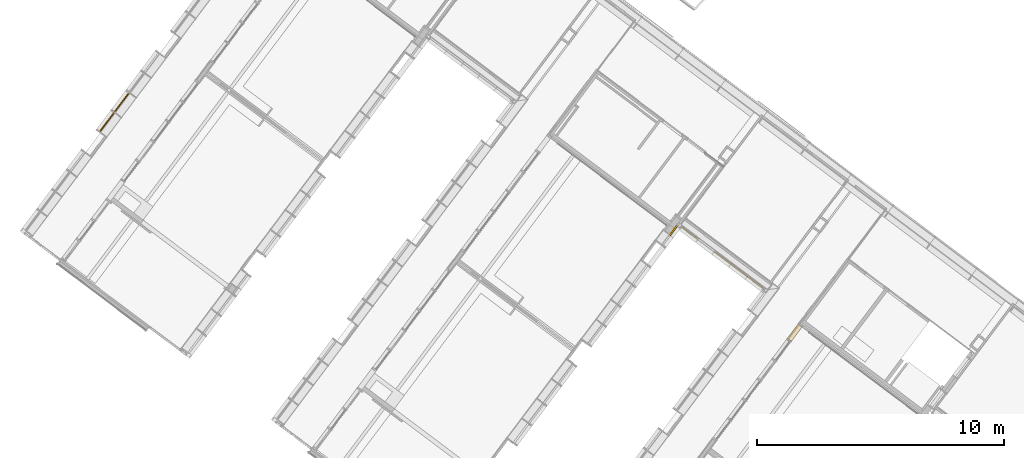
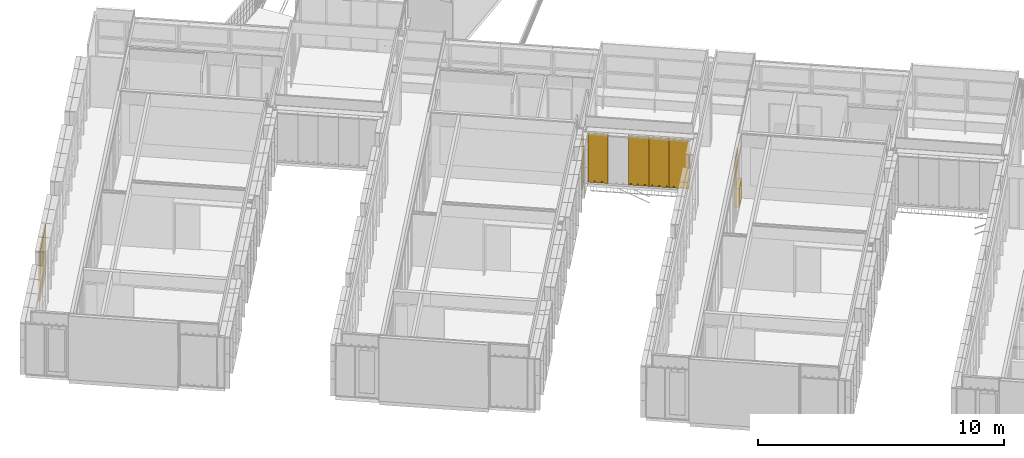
# One storey, part 198 of 243: 7 windows, 1 door, 4 elements without a shape of their own.
"""IFC2X3 building model written with IfcOpenShell, lengths in metres."""

from ifc_helpers import new_model, entity, si_unit, converted_unit, derived_unit, direction, frame, origin, origin_2d_with_axis, place, context, subcontext, project, spatial, rectangle, extrude, faceted_brep, source, transform, mapped, material, material_list, type_object, type_shapes, element, aggregate, save


model = new_model("IFC2X3")

# Units and contexts
model_context = context("Model", 3, precision=1e-05, world=origin(), true_north=direction((6.123031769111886e-17, 1.0)))
body_context = subcontext(model_context, "Body", "Model", "MODEL_VIEW")
ifc_project = project(units=[si_unit("LENGTHUNIT", "METRE"), si_unit("AREAUNIT", "SQUARE_METRE"), si_unit("VOLUMEUNIT", "CUBIC_METRE"), converted_unit("PLANEANGLEUNIT", "DEGREE", entity("IfcRatioMeasure", 0.017453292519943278), si_unit("PLANEANGLEUNIT", "RADIAN"), dimensions=[0, 0, 0, 0, 0, 0, 0]), si_unit("MASSUNIT", "GRAM", prefix="KILO"), derived_unit("MASSDENSITYUNIT", [(si_unit("MASSUNIT", "GRAM", prefix="KILO"), 1), (si_unit("LENGTHUNIT", "METRE"), -3)]), derived_unit("IONCONCENTRATIONUNIT", [(si_unit("MASSUNIT", "GRAM", prefix="KILO"), 1), (si_unit("LENGTHUNIT", "METRE"), -3)]), derived_unit("MOMENTOFINERTIAUNIT", [(si_unit("LENGTHUNIT", "METRE"), 4)]), si_unit("TIMEUNIT", "SECOND"), si_unit("FREQUENCYUNIT", "HERTZ"), si_unit("THERMODYNAMICTEMPERATUREUNIT", "DEGREE_CELSIUS"), derived_unit("THERMALTRANSMITTANCEUNIT", [(si_unit("MASSUNIT", "GRAM", prefix="KILO"), 1), (si_unit("THERMODYNAMICTEMPERATUREUNIT", "KELVIN"), -1), (si_unit("TIMEUNIT", "SECOND"), -3)]), derived_unit("THERMALCONDUCTANCEUNIT", [(si_unit("MASSUNIT", "GRAM", prefix="KILO"), 1), (si_unit("THERMODYNAMICTEMPERATUREUNIT", "KELVIN"), -1), (si_unit("TIMEUNIT", "SECOND"), -3), (si_unit("LENGTHUNIT", "METRE"), 1)]), derived_unit("VOLUMETRICFLOWRATEUNIT", [(si_unit("LENGTHUNIT", "METRE"), 3), (si_unit("TIMEUNIT", "SECOND"), -1)]), derived_unit("MASSFLOWRATEUNIT", [(si_unit("MASSUNIT", "GRAM", prefix="KILO"), 1), (si_unit("TIMEUNIT", "SECOND"), -1)]), derived_unit("ROTATIONALFREQUENCYUNIT", [(si_unit("TIMEUNIT", "SECOND"), -1)]), si_unit("ELECTRICCURRENTUNIT", "AMPERE"), si_unit("ELECTRICVOLTAGEUNIT", "VOLT"), si_unit("POWERUNIT", "WATT"), si_unit("FORCEUNIT", "NEWTON", prefix="KILO"), si_unit("ILLUMINANCEUNIT", "LUX"), si_unit("LUMINOUSFLUXUNIT", "LUMEN"), si_unit("LUMINOUSINTENSITYUNIT", "CANDELA"), derived_unit("USERDEFINED", [(si_unit("MASSUNIT", "GRAM", prefix="KILO"), -1), (si_unit("LENGTHUNIT", "METRE"), -2), (si_unit("TIMEUNIT", "SECOND"), 3), (si_unit("LUMINOUSFLUXUNIT", "LUMEN"), 1)]), derived_unit("USERDEFINED", [(si_unit("MASSUNIT", "GRAM", prefix="KILO"), 1), (si_unit("TIMEUNIT", "SECOND"), -3), (si_unit("LENGTHUNIT", "METRE"), 3), (si_unit("ELECTRICCURRENTUNIT", "AMPERE"), -2)]), derived_unit("SOUNDPOWERUNIT", [(si_unit("MASSUNIT", "GRAM", prefix="KILO"), 1), (si_unit("TIMEUNIT", "SECOND"), -3), (si_unit("LENGTHUNIT", "METRE"), 2)]), derived_unit("SOUNDPRESSUREUNIT", [(si_unit("MASSUNIT", "GRAM", prefix="KILO"), 1), (si_unit("LENGTHUNIT", "METRE"), -1), (si_unit("TIMEUNIT", "SECOND"), -2)]), derived_unit("LINEARVELOCITYUNIT", [(si_unit("LENGTHUNIT", "METRE"), 1), (si_unit("TIMEUNIT", "SECOND"), -1)]), si_unit("PRESSUREUNIT", "PASCAL"), derived_unit("USERDEFINED", [(si_unit("MASSUNIT", "GRAM", prefix="KILO"), 1), (si_unit("LENGTHUNIT", "METRE"), -2), (si_unit("TIMEUNIT", "SECOND"), -2)]), derived_unit("LINEARFORCEUNIT", [(si_unit("MASSUNIT", "GRAM", prefix="KILO"), 1), (si_unit("TIMEUNIT", "SECOND"), -2)]), derived_unit("PLANARFORCEUNIT", [(si_unit("MASSUNIT", "GRAM", prefix="KILO"), 1), (si_unit("LENGTHUNIT", "METRE"), -1), (si_unit("TIMEUNIT", "SECOND"), -2)]), derived_unit("SPECIFICHEATCAPACITYUNIT", [(si_unit("THERMODYNAMICTEMPERATUREUNIT", "KELVIN"), -1), (si_unit("LENGTHUNIT", "METRE"), 2), (si_unit("TIMEUNIT", "SECOND"), -2)]), derived_unit("HEATINGVALUEUNIT", [(si_unit("LENGTHUNIT", "METRE"), 2), (si_unit("TIMEUNIT", "SECOND"), -2)]), derived_unit("VAPORPERMEABILITYUNIT", [(si_unit("LENGTHUNIT", "METRE"), -1), (si_unit("TIMEUNIT", "SECOND"), 1)]), derived_unit("DYNAMICVISCOSITYUNIT", [(si_unit("MASSUNIT", "GRAM", prefix="KILO"), 1), (si_unit("TIMEUNIT", "SECOND"), -1), (si_unit("LENGTHUNIT", "METRE"), -1)]), derived_unit("THERMALEXPANSIONCOEFFICIENTUNIT", [(si_unit("THERMODYNAMICTEMPERATUREUNIT", "KELVIN"), -1)]), derived_unit("MODULUSOFELASTICITYUNIT", [(si_unit("MASSUNIT", "GRAM", prefix="KILO"), 1), (si_unit("LENGTHUNIT", "METRE"), -1), (si_unit("TIMEUNIT", "SECOND"), -2)]), derived_unit("ISOTHERMALMOISTURECAPACITYUNIT", [(si_unit("LENGTHUNIT", "METRE"), 3), (si_unit("MASSUNIT", "GRAM", prefix="KILO"), -1)]), derived_unit("MOISTUREDIFFUSIVITYUNIT", [(si_unit("TIMEUNIT", "SECOND"), -1), (si_unit("LENGTHUNIT", "METRE"), 2)])], contexts=[model_context])

# Site, building, storey
site_placement = place(None, frame((0.0, 0.0, 235.0), z_axis=(0.0, 0.0, 1.0), x_axis=(-0.7996477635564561, 0.6004693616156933, 0.0)))
site = spatial("IfcSite", under=ifc_project, at=site_placement, Name="Default", CompositionType="ELEMENT")
building_placement = place(site_placement, origin())
building = spatial("IfcBuilding", under=site, at=building_placement, CompositionType="ELEMENT")
storey_placement = place(building_placement, origin())
storey = spatial("IfcBuildingStorey", under=building, at=storey_placement, Name="P0- Escola", CompositionType="ELEMENT", Elevation=0.0)

# Curtain wall, window
curtain_wall_type_1 = type_object("IfcCurtainWallType", Name="Muro cortina:MC- INT- a1", PredefinedType="NOTDEFINED")
curtain_wall_1_placement = place(storey_placement, origin())
curtain_wall_1 = element("IfcCurtainWall", 1, at=curtain_wall_1_placement, inside=storey, type_object=curtain_wall_type_1, Name="Muro cortina:MC- INT- a1", ObjectType="Muro cortina:MC- INT- a1")
ifc_material_1 = material(Name="_Fusta massisa- T1-  REV- PAV")
ifc_material_2 = material(Name="_Aillament")
ifc_material_list_1 = material_list([ifc_material_1, ifc_material_2])
window_style_1 = type_object("IfcWindowStyle", Name="MC- Fusta- Finestra ventilacio interior- Enva- Sencer:MC- Fusta- Finestra ventilacio interior- Enva- Sencer", ConstructionType="NOTDEFINED", OperationType="NOTDEFINED", ParameterTakesPrecedence=False, Sizeable=False, material=ifc_material_list_1)
shared_shape_1 = source(origin(), body_context, "Body", "Brep", [
    faceted_brep([(-0.2805000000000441, 0.145000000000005, 2.428), (-0.28050000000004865, 0.14500000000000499, 1.0449999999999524), (0.28050000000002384, 0.1450000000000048, 1.0449999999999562), (0.2805000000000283, 0.14500000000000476, 2.428000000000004), (0.2805000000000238, 0.11500000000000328, 1.0449999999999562), (0.2805000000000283, 0.11500000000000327, 2.428000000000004), (-0.2805000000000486, 0.1150000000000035, 1.0449999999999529), (-0.2805000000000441, 0.11500000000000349, 2.428), (0.3255000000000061, 0.15999999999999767, 2.4730000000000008), (0.3255000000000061, 0.1300000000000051, 2.4730000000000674), (0.3255000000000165, 0.13000000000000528, 1.0), (0.3255000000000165, 0.16000000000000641, 1.0), (-0.32550000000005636, 0.13000000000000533, 1.0), (-0.32550000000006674, 0.12999999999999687, 2.4729999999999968), (-0.32550000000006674, 0.15999999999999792, 2.4729999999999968), (-0.32550000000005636, 0.16000000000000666, 1.0), (0.3405000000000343, 0.12999999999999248, 0.9850000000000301), (-0.3405000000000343, 0.12999999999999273, 0.9850000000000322), (-0.3405000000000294, 0.13000000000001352, 2.4880000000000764), (0.34050000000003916, 0.13000000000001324, 2.4880000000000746), (0.34050000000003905, 0.10000000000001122, 2.4880000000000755), (-0.34050000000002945, 0.1000000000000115, 2.4880000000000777), (-0.34050000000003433, 0.09999999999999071, 0.9850000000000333), (0.3405000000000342, 0.09999999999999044, 0.9850000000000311)], [[[0, 1, 2, 3]], [[3, 2, 4, 5]], [[5, 4, 6, 7]], [[1, 0, 7, 6]], [[8, 9, 10, 11]], [[12, 13, 14, 15]], [[13, 9, 8, 14]], [[8, 11, 15, 14]], [[0, 3, 5, 7]], [[2, 1, 6, 4]], [[11, 10, 12, 15]], [[9, 13, 12, 10], [16, 17, 18, 19]], [[20, 21, 22, 23]], [[20, 19, 18, 21]], [[16, 19, 20, 23]], [[18, 17, 22, 21]], [[16, 23, 22, 17]]], outer=[[True], [True], [True], [True], [True], [True], [True], [True], [True], [True], [True], [False, True], [True], [True], [True], [True], [True]]),
    faceted_brep([(0.3575000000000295, 0.10400000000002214, 2.5050000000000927), (0.35750000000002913, 0.1040000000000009, 0.9679999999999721), (0.3575000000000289, 0.15600000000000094, 0.9679999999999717), (0.3575000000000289, 0.1560000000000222, 2.5050000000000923), (0.3525000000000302, 0.15600000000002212, 2.500000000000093), (-0.35250000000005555, 0.15600000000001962, 2.500000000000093), (-0.35250000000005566, 0.1559999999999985, 0.9729999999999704), (0.3525000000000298, 0.15600000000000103, 0.9729999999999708), (-0.35750000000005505, 0.15600000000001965, 2.5050000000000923), (-0.3575000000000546, 0.15599999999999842, 0.9679999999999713), (-0.3575000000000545, 0.10399999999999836, 0.9679999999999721), (-0.3575000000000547, 0.1040000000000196, 2.5050000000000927), (-0.3525000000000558, 0.10400000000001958, 2.5000000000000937), (0.35250000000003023, 0.10400000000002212, 2.5000000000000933), (0.3525000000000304, 0.10400000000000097, 0.972999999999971), (-0.35250000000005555, 0.10399999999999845, 0.972999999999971), (0.35250000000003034, 0.1000000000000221, 2.5000000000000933), (0.3525000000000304, 0.100000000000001, 0.972999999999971), (-0.35250000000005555, 0.09999999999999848, 0.9729999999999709), (-0.3525000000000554, 0.1000000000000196, 2.5000000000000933), (-0.3425000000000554, 0.1000000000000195, 2.4900000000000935), (0.34250000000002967, 0.1000000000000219, 2.490000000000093), (0.34250000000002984, 0.10000000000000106, 0.9829999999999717), (-0.34250000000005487, 0.09999999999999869, 0.9829999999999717), (0.3425000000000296, 0.13000000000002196, 2.490000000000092), (0.3425000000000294, 0.13000000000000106, 0.9829999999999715), (-0.342500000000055, 0.12999999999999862, 0.9829999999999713), (-0.34250000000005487, 0.13000000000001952, 2.490000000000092), (-0.3275000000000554, 0.13000000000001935, 2.475000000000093), (0.32750000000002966, 0.13000000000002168, 2.4750000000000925), (0.32750000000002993, 0.13000000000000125, 0.9979999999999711), (-0.3275000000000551, 0.1299999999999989, 0.9979999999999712), (0.3275000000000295, 0.16000000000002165, 2.475000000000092), (0.3275000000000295, 0.16000000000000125, 0.9979999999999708), (-0.32750000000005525, 0.15999999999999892, 0.9979999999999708), (-0.32750000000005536, 0.16000000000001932, 2.4750000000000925), (-0.3525000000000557, 0.16000000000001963, 2.500000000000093), (0.3525000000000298, 0.16000000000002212, 2.5000000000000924), (0.35250000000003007, 0.16000000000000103, 0.9729999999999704), (-0.3525000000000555, 0.1599999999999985, 0.9729999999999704)], [[[0, 1, 2, 3]], [[4, 5, 6, 7], [8, 3, 2, 9]], [[1, 10, 9, 2]], [[0, 11, 10, 1], [12, 13, 14, 15]], [[16, 17, 14, 13]], [[17, 18, 15, 14]], [[16, 19, 18, 17], [20, 21, 22, 23]], [[24, 25, 22, 21]], [[25, 26, 23, 22]], [[24, 27, 26, 25], [28, 29, 30, 31]], [[32, 33, 30, 29]], [[33, 34, 31, 30]], [[32, 35, 34, 33], [36, 37, 38, 39]], [[4, 7, 38, 37]], [[7, 6, 39, 38]], [[10, 11, 8, 9]], [[18, 19, 12, 15]], [[26, 27, 20, 23]], [[34, 35, 28, 31]], [[6, 5, 36, 39]], [[11, 0, 3, 8]], [[19, 16, 13, 12]], [[27, 24, 21, 20]], [[35, 32, 29, 28]], [[5, 4, 37, 36]]], outer=[[True], [False, True], [True], [True, False], [True], [True], [True, False], [True], [True], [True, False], [True], [True], [False, True], [True], [True], [True], [True], [True], [True], [True], [True], [True], [True], [True], [True]]),
    faceted_brep([(-0.35250000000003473, 0.14500000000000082, 0.005000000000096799), (0.35250000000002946, 0.14500000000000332, 0.005000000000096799), (0.35250000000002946, 0.14500000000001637, 0.9480000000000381), (-0.35250000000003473, 0.14500000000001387, 0.9480000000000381), (-0.3525000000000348, 0.15999999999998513, 0.005000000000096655), (-0.3525000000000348, 0.15999999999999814, 0.9480000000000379), (0.3525000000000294, 0.16000000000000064, 0.9480000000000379), (0.3525000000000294, 0.15999999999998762, 0.005000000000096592)], [[[0, 1, 2, 3]], [[4, 5, 6, 7]], [[7, 1, 0, 4]], [[6, 2, 1, 7]], [[5, 3, 2, 6]], [[4, 0, 3, 5]]]),
    faceted_brep([(-0.3525000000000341, -0.039999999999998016, 0.005000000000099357), (0.35250000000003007, -0.03999999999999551, 0.005000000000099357), (0.35250000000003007, -0.03999999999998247, 0.9480000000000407), (-0.3525000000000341, -0.03999999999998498, 0.9480000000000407), (-0.3525000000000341, -0.025000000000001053, 0.005000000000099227), (-0.3525000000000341, -0.02499999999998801, 0.9480000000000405), (0.35250000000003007, -0.024999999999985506, 0.9480000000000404), (0.35250000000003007, -0.024999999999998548, 0.00500000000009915)], [[[0, 1, 2, 3]], [[4, 5, 6, 7]], [[7, 1, 0, 4]], [[6, 2, 1, 7]], [[5, 3, 2, 6]], [[4, 0, 3, 5]]]),
    faceted_brep([(-0.3575000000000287, -0.025000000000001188, 0.0), (0.35750000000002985, -0.024999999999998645, 0.0), (0.35750000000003, -0.024999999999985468, 0.9530000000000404), (-0.3575000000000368, -0.02499999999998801, 0.9530000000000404), (-0.3575000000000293, 0.14500000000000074, 0.0), (-0.3575000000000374, 0.14500000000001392, 0.9530000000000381), (0.3575000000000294, 0.14500000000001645, 0.9530000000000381), (0.35750000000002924, 0.1450000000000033, 0.0)], [[[0, 1, 2, 3]], [[4, 5, 6, 7]], [[7, 1, 0, 4]], [[6, 2, 1, 7]], [[5, 3, 2, 6]], [[4, 0, 3, 5]]]),
    faceted_brep([(-0.3575000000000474, 0.15999999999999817, 0.9530000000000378), (-0.3575000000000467, -0.04000000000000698, 0.9530000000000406), (-0.3575000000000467, -0.04000000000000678, 0.9680000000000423), (-0.3575000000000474, 0.15999999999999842, 0.9680000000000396), (0.35750000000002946, 0.16000000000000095, 0.9680000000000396), (0.3575000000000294, 0.16000000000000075, 0.9530000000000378), (0.3575000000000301, -0.04000000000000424, 0.9680000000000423), (0.3575000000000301, -0.04000000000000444, 0.9530000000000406)], [[[0, 1, 2, 3]], [[3, 4, 5, 0]], [[2, 6, 4, 3]], [[1, 7, 6, 2]], [[0, 5, 7, 1]], [[5, 4, 6, 7]]]),
])
type_shapes(window_style_1, [shared_shape_1])
window_1_placement = place(curtain_wall_1_placement, frame((47.320147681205, -35.80268997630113, 0.0), z_axis=(0.0, 0.0, 1.0), x_axis=(0.0, -1.0, 0.0)))
window_1 = element("IfcWindow", 2, at=window_1_placement, type_object=window_style_1, material=ifc_material_list_1, Name="MC- Fusta- Finestra ventilacio interior- Enva- Sencer:MC- Fusta- Finestra ventilacio interior- Enva- Sencer", ObjectType="MC- Fusta- Finestra ventilacio interior- Enva- Sencer:MC- Fusta- Finestra ventilacio interior- Enva- Sencer", OverallHeight=2.5050000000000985, OverallWidth=0.715000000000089, context=body_context, shape_type="MappedRepresentation", body=[
    mapped(shared_shape_1, transform((0.0, 0.0, 0.0), scale=1.0)),
])
aggregate(curtain_wall_1, [window_1])

# Curtain wall, door
curtain_wall_type_2 = type_object("IfcCurtainWallType", Name="Muro cortina:MC- EXT- MC2", PredefinedType="NOTDEFINED")
curtain_wall_2_placement = place(storey_placement, origin())
curtain_wall_2 = element("IfcCurtainWall", 3, at=curtain_wall_2_placement, inside=storey, type_object=curtain_wall_type_2, Name="Muro cortina:MC- EXT- MC2", ObjectType="Muro cortina:MC- EXT- MC2")
ifc_material_3 = material(Name="_Alumini- T1- Perfil")
ifc_material_list_2 = material_list([ifc_material_3, ifc_material_2])
door_style = type_object("IfcDoorStyle", Name="MC- Alu- panell especific xapa:MC- Alu- panell especific xapa", ConstructionType="NOTDEFINED", OperationType="NOTDEFINED", ParameterTakesPrecedence=False, Sizeable=False, material=ifc_material_list_2)
shared_shape_2 = source(origin(), body_context, "Body", "SweptSolid", [
    extrude(rectangle(XDim=0.005999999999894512, YDim=0.47694997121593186, at=origin_2d_with_axis()), frame((0.0, -0.057000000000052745, 0.0), z_axis=(0.0, 0.0, 1.0), x_axis=(0.0, -1.0, 0.0)), (0.0, 0.0, 1.0), 2.471449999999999),
    extrude(rectangle(XDim=0.4769499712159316, YDim=0.048000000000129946, at=origin_2d_with_axis()), frame((0.0, -0.030000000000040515, 0.0)), (0.0, 0.0, 1.0), 2.471449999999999),
    extrude(rectangle(XDim=0.005999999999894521, YDim=0.47694997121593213, at=origin_2d_with_axis()), frame((0.0, -0.003000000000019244, 0.0), z_axis=(0.0, 0.0, 1.0), x_axis=(0.0, -1.0, 0.0)), (0.0, 0.0, 1.0), 2.471449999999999),
])
type_shapes(door_style, [shared_shape_2])
door_placement = place(curtain_wall_2_placement, frame((53.745147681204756, -36.161664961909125, 0.03229999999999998), z_axis=(0.0, 0.0, 1.0), x_axis=(0.0, 1.0, 0.0)))
door = element("IfcDoor", 4, at=door_placement, type_object=door_style, material=ifc_material_list_2, Name="MC- Alu- panell especific xapa:MC- Alu- panell especific xapa", ObjectType="MC- Alu- panell especific xapa:MC- Alu- panell especific xapa", OverallHeight=2.471449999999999, OverallWidth=0.47694997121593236, context=body_context, shape_type="MappedRepresentation", body=[
    mapped(shared_shape_2, transform((0.0, 0.0, 0.0), scale=1.0)),
])
aggregate(curtain_wall_2, [door])

# Curtain wall, windows
curtain_wall_type_3 = type_object("IfcCurtainWallType", Name="Muro cortina:MC- EXT- MC5", PredefinedType="NOTDEFINED")
curtain_wall_3_placement = place(storey_placement, origin())
curtain_wall_3 = element("IfcCurtainWall", 5, at=curtain_wall_3_placement, inside=storey, type_object=curtain_wall_type_3, Name="Muro cortina:MC- EXT- MC5", ObjectType="Muro cortina:MC- EXT- MC5")
ifc_material_4 = material(Name="_Vidre")
ifc_material_list_3 = material_list([ifc_material_4, ifc_material_3])
window_style_2 = type_object("IfcWindowStyle", Name="MC- Alu- Conjunt vidre fix- 62x60 cm:MC- Alu- Conjunt vidre fix- 62x60 cm", ConstructionType="NOTDEFINED", OperationType="NOTDEFINED", ParameterTakesPrecedence=False, Sizeable=False, material=ifc_material_list_3)
shared_shape_3 = source(origin(), body_context, "Body", "Brep", [
    faceted_brep([(-0.43619328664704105, -0.007600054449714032, 0.048806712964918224), (0.43619328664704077, -0.007600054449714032, 0.048806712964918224), (0.43619328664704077, -0.03160022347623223, 0.048806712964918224), (-0.43619328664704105, -0.03160022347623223, 0.048806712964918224), (-0.43619328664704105, -0.007600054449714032, 2.422449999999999), (0.43619328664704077, -0.007600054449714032, 2.422449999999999), (0.43619328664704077, -0.03160022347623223, 2.422449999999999), (-0.43619328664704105, -0.03160022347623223, 2.422449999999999)], [[[0, 1, 2, 3]], [[4, 5, 1, 0]], [[5, 6, 2, 1]], [[6, 7, 3, 2]], [[7, 4, 0, 3]], [[4, 7, 6, 5]]]),
    faceted_brep([(-0.4849999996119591, -0.05999999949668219, 2.471449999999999), (-0.4849999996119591, 0.0, 2.471449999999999), (-0.4849999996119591, 0.0, 0.0), (-0.48499999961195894, -0.05999999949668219, 0.0), (-0.4221931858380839, 0.0, 2.408643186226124), (-0.4221931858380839, 0.0, 0.06280681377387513), (0.42219318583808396, 0.0, 0.06280681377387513), (0.422193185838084, 0.0, 2.408643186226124), (0.4849999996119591, 0.0, 2.471449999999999), (0.4849999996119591, 0.0, 0.0), (0.48499999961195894, -0.05999999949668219, 0.0), (0.4849999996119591, -0.05999999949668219, 2.471449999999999), (0.42219603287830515, -0.05999999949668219, 2.408646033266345), (0.42219603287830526, -0.05999999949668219, 0.06280396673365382), (-0.42219603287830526, -0.05999999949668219, 0.06280396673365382), (-0.42219603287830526, -0.05999999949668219, 2.4086460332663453), (-0.42219603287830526, -0.03160022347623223, 2.4086460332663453), (-0.4221960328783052, -0.03160022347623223, 0.06280396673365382), (0.4221960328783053, -0.03160022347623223, 0.06280396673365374), (0.42219603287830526, -0.03160022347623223, 2.4086460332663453), (0.43619328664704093, -0.03160022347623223, 2.422643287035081), (0.43619328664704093, -0.03160022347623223, 0.048806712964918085), (-0.4361932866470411, -0.03160022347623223, 0.04880671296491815), (-0.43619328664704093, -0.03160022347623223, 2.422643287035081), (-0.43619328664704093, -0.007600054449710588, 2.422643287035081), (-0.4361932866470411, -0.007600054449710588, 0.04880671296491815), (0.43619328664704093, -0.007600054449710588, 0.048806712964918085), (0.43619328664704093, -0.007600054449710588, 2.422643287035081), (0.42219318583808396, -0.007600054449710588, 2.408643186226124), (0.42219318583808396, -0.007600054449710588, 0.06280681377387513), (-0.42219318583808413, -0.007600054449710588, 0.06280681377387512), (-0.4221931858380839, -0.007600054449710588, 2.408643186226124)], [[[0, 1, 2, 3]], [[4, 5, 6, 7], [8, 9, 2, 1]], [[3, 2, 9, 10]], [[0, 3, 10, 11], [12, 13, 14, 15]], [[16, 15, 14, 17]], [[17, 14, 13, 18]], [[16, 17, 18, 19], [20, 21, 22, 23]], [[24, 23, 22, 25]], [[25, 22, 21, 26]], [[24, 25, 26, 27], [28, 29, 30, 31]], [[4, 31, 30, 5]], [[5, 30, 29, 6]], [[10, 9, 8, 11]], [[18, 13, 12, 19]], [[26, 21, 20, 27]], [[6, 29, 28, 7]], [[11, 8, 1, 0]], [[19, 12, 15, 16]], [[27, 20, 23, 24]], [[7, 28, 31, 4]]], outer=[[True], [False, True], [True], [True, False], [True], [True], [False, True], [True], [True], [True, False], [True], [True], [True], [True], [True], [True], [True], [True], [True], [True]]),
])
type_shapes(window_style_2, [shared_shape_3])
window_2_placement = place(curtain_wall_3_placement, frame((74.7451476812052, -26.91519175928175, 0.03229999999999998), z_axis=(0.0, 0.0, 1.0), x_axis=(0.0, -1.0, 0.0)))
window_2 = element("IfcWindow", 6, at=window_2_placement, type_object=window_style_2, material=ifc_material_list_3, Name="MC- Alu- Conjunt vidre fix- 62x60 cm:MC- Alu- Conjunt vidre fix- 62x60 cm", ObjectType="MC- Alu- Conjunt vidre fix- 62x60 cm:MC- Alu- Conjunt vidre fix- 62x60 cm", OverallHeight=2.471449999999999, OverallWidth=0.9699999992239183, context=body_context, shape_type="MappedRepresentation", body=[
    mapped(shared_shape_3, transform((0.0, 0.0, 0.0), scale=1.0)),
])
window_style_3 = type_object("IfcWindowStyle", Name="MC- Alu- Conjunt vidre fix- 62x60 cm:MC- Alu- Conjunt vidre fix- 62x60 cm", ConstructionType="NOTDEFINED", OperationType="NOTDEFINED", ParameterTakesPrecedence=False, Sizeable=False, material=ifc_material_list_3)
shared_shape_4 = source(origin(), body_context, "Body", "Brep", [
    faceted_brep([(0.43619328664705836, -0.007600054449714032, 0.048806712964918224), (0.43619328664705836, -0.03160022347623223, 0.048806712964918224), (-0.4361932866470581, -0.03160022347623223, 0.048806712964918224), (-0.4361932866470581, -0.007600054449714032, 0.048806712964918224), (0.43619328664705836, -0.007600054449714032, 2.422449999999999), (-0.4361932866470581, -0.007600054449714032, 2.422449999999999), (-0.4361932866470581, -0.03160022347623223, 2.422449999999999), (0.43619328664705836, -0.03160022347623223, 2.422449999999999)], [[[0, 1, 2, 3]], [[4, 0, 3, 5]], [[5, 3, 2, 6]], [[6, 2, 1, 7]], [[7, 1, 0, 4]], [[4, 5, 6, 7]]]),
    faceted_brep([(0.48499999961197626, -0.05999999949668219, 2.471449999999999), (0.48499999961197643, -0.05999999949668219, 0.0), (0.48499999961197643, 0.0, 0.0), (0.48499999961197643, 0.0, 2.471449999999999), (-0.48499999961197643, 0.0, 2.471449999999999), (-0.48499999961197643, 0.0, 0.0), (0.4221931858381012, 0.0, 2.408643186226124), (-0.4221931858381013, 0.0, 2.408643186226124), (-0.4221931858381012, 0.0, 0.06280681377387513), (0.4221931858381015, 0.0, 0.06280681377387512), (-0.48499999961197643, -0.05999999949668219, 0.0), (-0.4849999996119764, -0.05999999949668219, 2.471449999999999), (-0.4221960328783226, -0.05999999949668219, 2.4086460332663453), (0.4221960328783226, -0.05999999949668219, 2.4086460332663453), (0.4221960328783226, -0.05999999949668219, 0.06280396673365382), (-0.4221960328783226, -0.05999999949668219, 0.06280396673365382), (0.42219603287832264, -0.03160022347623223, 2.4086460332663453), (0.4221960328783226, -0.03160022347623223, 0.06280396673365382), (-0.4221960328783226, -0.03160022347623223, 0.06280396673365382), (-0.4221960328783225, -0.03160022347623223, 2.4086460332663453), (-0.43619328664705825, -0.03160022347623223, 2.422643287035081), (0.43619328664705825, -0.03160022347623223, 2.422643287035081), (0.43619328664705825, -0.03160022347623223, 0.048806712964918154), (-0.43619328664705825, -0.03160022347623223, 0.04880671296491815), (0.43619328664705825, -0.007600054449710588, 2.422643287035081), (0.4361932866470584, -0.007600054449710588, 0.04880671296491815), (-0.43619328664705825, -0.007600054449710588, 0.048806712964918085), (-0.43619328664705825, -0.007600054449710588, 2.422643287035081), (-0.4221931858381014, -0.007600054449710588, 2.408643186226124), (0.4221931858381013, -0.007600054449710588, 2.408643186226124), (0.4221931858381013, -0.007600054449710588, 0.06280681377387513), (-0.4221931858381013, -0.007600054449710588, 0.06280681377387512)], [[[0, 1, 2, 3]], [[4, 3, 2, 5], [6, 7, 8, 9]], [[1, 10, 5, 2]], [[0, 11, 10, 1], [12, 13, 14, 15]], [[16, 17, 14, 13]], [[17, 18, 15, 14]], [[16, 19, 18, 17], [20, 21, 22, 23]], [[24, 25, 22, 21]], [[25, 26, 23, 22]], [[24, 27, 26, 25], [28, 29, 30, 31]], [[6, 9, 30, 29]], [[9, 8, 31, 30]], [[10, 11, 4, 5]], [[18, 19, 12, 15]], [[26, 27, 20, 23]], [[8, 7, 28, 31]], [[11, 0, 3, 4]], [[19, 16, 13, 12]], [[27, 24, 21, 20]], [[7, 6, 29, 28]]], outer=[[True], [True, False], [True], [True, False], [True], [True], [False, True], [True], [True], [True, False], [True], [True], [True], [True], [True], [True], [True], [True], [True], [True]]),
])
type_shapes(window_style_3, [shared_shape_4])
window_3_placement = place(curtain_wall_3_placement, frame((74.7451476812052, -25.915191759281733, 0.03229999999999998), z_axis=(0.0, 0.0, 1.0), x_axis=(0.0, -1.0, 0.0)))
window_3 = element("IfcWindow", 7, at=window_3_placement, type_object=window_style_3, material=ifc_material_list_3, Name="MC- Alu- Conjunt vidre fix- 62x60 cm:MC- Alu- Conjunt vidre fix- 62x60 cm", ObjectType="MC- Alu- Conjunt vidre fix- 62x60 cm:MC- Alu- Conjunt vidre fix- 62x60 cm", OverallHeight=2.471449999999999, OverallWidth=0.969999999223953, context=body_context, shape_type="MappedRepresentation", body=[
    mapped(shared_shape_4, transform((0.0, 0.0, 0.0), scale=1.0)),
])
aggregate(curtain_wall_3, [window_3, window_2])

curtain_wall_type_4 = type_object("IfcCurtainWallType", PredefinedType="NOTDEFINED")
curtain_wall_4_placement = place(storey_placement, origin())
curtain_wall_4 = element("IfcCurtainWall", 8, at=curtain_wall_4_placement, inside=storey, type_object=curtain_wall_type_4)
window_style_4 = type_object("IfcWindowStyle", Name="MC- Alu- Conjunt vidre fix- 62x60 cm:MC- Alu- Conjunt vidre fix- 62x60 cm", ConstructionType="NOTDEFINED", OperationType="NOTDEFINED", ParameterTakesPrecedence=False, Sizeable=False, material=ifc_material_list_3)
shared_shape_5 = source(origin(), body_context, "Body", "Brep", [
    faceted_brep([(-0.367593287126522, -0.007600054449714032, 0.048806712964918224), (0.36759328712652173, -0.007600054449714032, 0.048806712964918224), (0.36759328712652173, -0.03160022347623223, 0.048806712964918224), (-0.367593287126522, -0.03160022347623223, 0.048806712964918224), (-0.367593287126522, -0.007600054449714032, 2.389749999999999), (0.36759328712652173, -0.007600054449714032, 2.389749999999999), (0.36759328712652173, -0.03160022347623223, 2.389749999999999), (-0.367593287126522, -0.03160022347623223, 2.389749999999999)], [[[0, 1, 2, 3]], [[4, 5, 1, 0]], [[5, 6, 2, 1]], [[6, 7, 3, 2]], [[7, 4, 0, 3]], [[4, 7, 6, 5]]]),
    faceted_brep([(-0.4164000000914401, -0.05999999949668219, 2.438749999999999), (-0.4164000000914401, 0.0, 2.438749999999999), (-0.4164000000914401, 0.0, 0.0), (-0.41640000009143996, -0.05999999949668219, 0.0), (-0.3535931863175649, 0.0, 2.3759431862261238), (-0.3535931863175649, 0.0, 0.06280681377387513), (0.353593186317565, 0.0, 0.06280681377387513), (0.35359318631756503, 0.0, 2.3759431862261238), (0.4164000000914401, 0.0, 2.438749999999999), (0.4164000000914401, 0.0, 0.0), (0.41640000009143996, -0.05999999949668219, 0.0), (0.4164000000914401, -0.05999999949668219, 2.438749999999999), (0.35359603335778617, -0.05999999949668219, 2.3759460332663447), (0.3535960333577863, -0.05999999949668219, 0.06280396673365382), (-0.3535960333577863, -0.05999999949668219, 0.06280396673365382), (-0.3535960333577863, -0.05999999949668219, 2.375946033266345), (-0.3535960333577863, -0.03160022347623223, 2.375946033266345), (-0.3535960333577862, -0.03160022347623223, 0.06280396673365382), (0.3535960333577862, -0.03160022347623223, 0.0628039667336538), (0.3535960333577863, -0.03160022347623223, 2.375946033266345), (0.36759328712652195, -0.03160022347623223, 2.3899432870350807), (0.36759328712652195, -0.03160022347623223, 0.048806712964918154), (-0.36759328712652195, -0.03160022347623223, 0.04880671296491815), (-0.36759328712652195, -0.03160022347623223, 2.3899432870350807), (-0.36759328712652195, -0.007600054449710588, 2.3899432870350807), (-0.36759328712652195, -0.007600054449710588, 0.04880671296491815), (0.36759328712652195, -0.007600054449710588, 0.048806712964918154), (0.36759328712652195, -0.007600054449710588, 2.3899432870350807), (0.353593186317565, -0.007600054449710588, 2.3759431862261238), (0.353593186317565, -0.007600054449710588, 0.06280681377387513), (-0.353593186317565, -0.007600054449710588, 0.06280681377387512), (-0.35359318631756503, -0.007600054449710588, 2.3759431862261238)], [[[0, 1, 2, 3]], [[4, 5, 6, 7], [8, 9, 2, 1]], [[3, 2, 9, 10]], [[0, 3, 10, 11], [12, 13, 14, 15]], [[16, 15, 14, 17]], [[17, 14, 13, 18]], [[16, 17, 18, 19], [20, 21, 22, 23]], [[24, 23, 22, 25]], [[25, 22, 21, 26]], [[24, 25, 26, 27], [28, 29, 30, 31]], [[4, 31, 30, 5]], [[5, 30, 29, 6]], [[10, 9, 8, 11]], [[18, 13, 12, 19]], [[26, 21, 20, 27]], [[6, 29, 28, 7]], [[11, 8, 1, 0]], [[19, 12, 15, 16]], [[27, 20, 23, 24]], [[7, 28, 31, 4]]], outer=[[True], [False, True], [True], [True, False], [True], [True], [False, True], [True], [True], [True, False], [True], [True], [True], [True], [True], [True], [True], [True], [True], [True]]),
])
type_shapes(window_style_4, [shared_shape_5])
window_4_placement = place(curtain_wall_4_placement, frame((49.85954768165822, -36.455189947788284, 0.06499999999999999)))
window_4 = element("IfcWindow", 9, at=window_4_placement, type_object=window_style_4, material=ifc_material_list_3, Name="MC- Alu- Conjunt vidre fix- 62x60 cm:MC- Alu- Conjunt vidre fix- 62x60 cm", ObjectType="MC- Alu- Conjunt vidre fix- 62x60 cm:MC- Alu- Conjunt vidre fix- 62x60 cm", OverallHeight=2.438749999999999, OverallWidth=0.8328000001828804, context=body_context, shape_type="MappedRepresentation", body=[
    mapped(shared_shape_5, transform((0.0, 0.0, 0.0), scale=1.0)),
])
window_5_placement = place(curtain_wall_4_placement, frame((50.6923476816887, -36.455189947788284, 0.06499999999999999)))
window_5 = element("IfcWindow", 10, at=window_5_placement, type_object=window_style_4, material=ifc_material_list_3, Name="MC- Alu- Conjunt vidre fix- 62x60 cm:MC- Alu- Conjunt vidre fix- 62x60 cm", ObjectType="MC- Alu- Conjunt vidre fix- 62x60 cm:MC- Alu- Conjunt vidre fix- 62x60 cm", OverallHeight=2.438749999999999, OverallWidth=0.8328000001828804, context=body_context, shape_type="MappedRepresentation", body=[
    mapped(shared_shape_5, transform((0.0, 0.0, 0.0), scale=1.0)),
])
window_6_placement = place(curtain_wall_4_placement, frame((51.52514768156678, -36.45518994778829, 0.06499999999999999)))
window_6 = element("IfcWindow", 11, at=window_6_placement, type_object=window_style_4, material=ifc_material_list_3, Name="MC- Alu- Conjunt vidre fix- 62x60 cm:MC- Alu- Conjunt vidre fix- 62x60 cm", ObjectType="MC- Alu- Conjunt vidre fix- 62x60 cm:MC- Alu- Conjunt vidre fix- 62x60 cm", OverallHeight=2.438749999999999, OverallWidth=0.8328000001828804, context=body_context, shape_type="MappedRepresentation", body=[
    mapped(shared_shape_5, transform((0.0, 0.0, 0.0), scale=1.0)),
])
window_7_placement = place(curtain_wall_4_placement, frame((53.19074768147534, -36.4551899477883, 0.06499999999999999)))
window_7 = element("IfcWindow", 12, at=window_7_placement, type_object=window_style_4, material=ifc_material_list_3, Name="MC- Alu- Conjunt vidre fix- 62x60 cm:MC- Alu- Conjunt vidre fix- 62x60 cm", ObjectType="MC- Alu- Conjunt vidre fix- 62x60 cm:MC- Alu- Conjunt vidre fix- 62x60 cm", OverallHeight=2.438749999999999, OverallWidth=0.8328000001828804, context=body_context, shape_type="MappedRepresentation", body=[
    mapped(shared_shape_5, transform((0.0, 0.0, 0.0), scale=1.0)),
])
aggregate(curtain_wall_4, [window_4, window_5, window_6, window_7])

save(model, "model.ifc")
